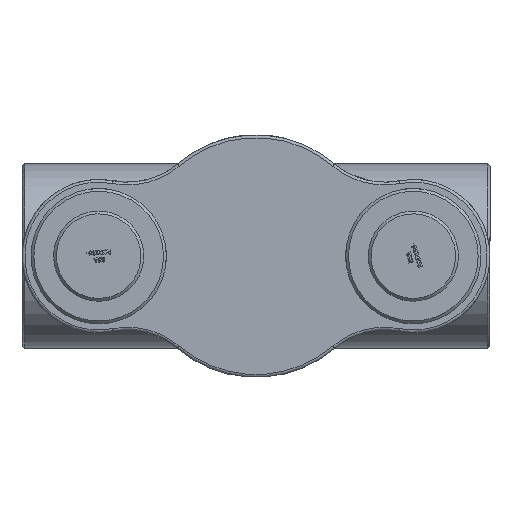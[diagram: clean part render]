
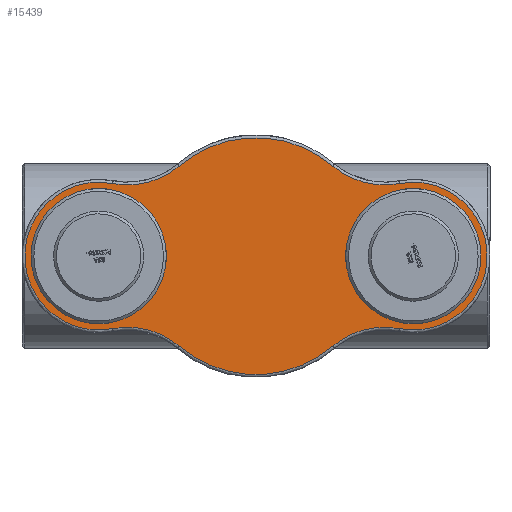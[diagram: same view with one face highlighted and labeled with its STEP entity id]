
A CAD part, front view. The second image highlights one B-rep face of the part: STEP entity #15439.
In plain terms, the highlighted planar face has unit normal (0, -1, 0) as drawn and (0, 0, -1) by its records, which use the part's own axes.
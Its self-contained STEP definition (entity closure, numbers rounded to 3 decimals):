
#4067=PLANE('',#16425);
#4478=FACE_BOUND('',#5477,.T.);
#4479=FACE_BOUND('',#5478,.T.);
#4579=FACE_OUTER_BOUND('',#5476,.T.);
#5476=EDGE_LOOP('',(#10642,#10643,#10644,#10645,#10646,#10647,#10648,#10649));
#5477=EDGE_LOOP('',(#10650));
#5478=EDGE_LOOP('',(#10651));
#6472=CIRCLE('',#16424,88.5);
#6473=CIRCLE('',#16426,131.);
#6474=CIRCLE('',#16427,141.);
#6475=CIRCLE('',#16428,210.);
#6476=CIRCLE('',#16429,141.);
#6477=CIRCLE('',#16430,131.);
#6478=CIRCLE('',#16431,141.);
#6479=CIRCLE('',#16432,210.);
#6480=CIRCLE('',#16433,141.);
#6481=CIRCLE('',#16434,88.5);
#6660=VERTEX_POINT('',#19953);
#6661=VERTEX_POINT('',#19956);
#6662=VERTEX_POINT('',#19957);
#6663=VERTEX_POINT('',#19959);
#6664=VERTEX_POINT('',#19961);
#6665=VERTEX_POINT('',#19963);
#6666=VERTEX_POINT('',#19965);
#6667=VERTEX_POINT('',#19967);
#6668=VERTEX_POINT('',#19969);
#6669=VERTEX_POINT('',#19972);
#8252=EDGE_CURVE('',#6660,#6660,#6472,.T.);
#8253=EDGE_CURVE('',#6661,#6662,#6473,.T.);
#8254=EDGE_CURVE('',#6663,#6661,#6474,.T.);
#8255=EDGE_CURVE('',#6664,#6663,#6475,.T.);
#8256=EDGE_CURVE('',#6665,#6664,#6476,.T.);
#8257=EDGE_CURVE('',#6666,#6665,#6477,.T.);
#8258=EDGE_CURVE('',#6667,#6666,#6478,.T.);
#8259=EDGE_CURVE('',#6668,#6667,#6479,.T.);
#8260=EDGE_CURVE('',#6662,#6668,#6480,.T.);
#8261=EDGE_CURVE('',#6669,#6669,#6481,.T.);
#10642=ORIENTED_EDGE('',*,*,#8253,.F.);
#10643=ORIENTED_EDGE('',*,*,#8254,.F.);
#10644=ORIENTED_EDGE('',*,*,#8255,.F.);
#10645=ORIENTED_EDGE('',*,*,#8256,.F.);
#10646=ORIENTED_EDGE('',*,*,#8257,.F.);
#10647=ORIENTED_EDGE('',*,*,#8258,.F.);
#10648=ORIENTED_EDGE('',*,*,#8259,.F.);
#10649=ORIENTED_EDGE('',*,*,#8260,.F.);
#10650=ORIENTED_EDGE('',*,*,#8261,.F.);
#10651=ORIENTED_EDGE('',*,*,#8252,.F.);
#15439=ADVANCED_FACE('',(#4579,#4478,#4479),#4067,.F.);
#16424=AXIS2_PLACEMENT_3D('',#19954,#17157,#17158);
#16425=AXIS2_PLACEMENT_3D('',#19955,#17159,#17160);
#16426=AXIS2_PLACEMENT_3D('',#19958,#17161,#17162);
#16427=AXIS2_PLACEMENT_3D('',#19960,#17163,#17164);
#16428=AXIS2_PLACEMENT_3D('',#19962,#17165,#17166);
#16429=AXIS2_PLACEMENT_3D('',#19964,#17167,#17168);
#16430=AXIS2_PLACEMENT_3D('',#19966,#17169,#17170);
#16431=AXIS2_PLACEMENT_3D('',#19968,#17171,#17172);
#16432=AXIS2_PLACEMENT_3D('',#19970,#17173,#17174);
#16433=AXIS2_PLACEMENT_3D('',#19971,#17175,#17176);
#16434=AXIS2_PLACEMENT_3D('',#19973,#17177,#17178);
#17157=DIRECTION('center_axis',(0.,0.,-1.));
#17158=DIRECTION('ref_axis',(1.,0.,0.));
#17159=DIRECTION('center_axis',(0.,0.,1.));
#17160=DIRECTION('ref_axis',(1.,0.,0.));
#17161=DIRECTION('center_axis',(0.,0.,1.));
#17162=DIRECTION('ref_axis',(-1.,0.,0.));
#17163=DIRECTION('center_axis',(0.,0.,-1.));
#17164=DIRECTION('ref_axis',(0.255,-0.967,0.));
#17165=DIRECTION('center_axis',(0.,0.,1.));
#17166=DIRECTION('ref_axis',(0.,1.,0.));
#17167=DIRECTION('center_axis',(0.,0.,-1.));
#17168=DIRECTION('ref_axis',(-0.255,-0.967,0.));
#17169=DIRECTION('center_axis',(0.,0.,1.));
#17170=DIRECTION('ref_axis',(1.,0.,0.));
#17171=DIRECTION('center_axis',(0.,0.,-1.));
#17172=DIRECTION('ref_axis',(-0.255,0.967,0.));
#17173=DIRECTION('center_axis',(0.,0.,1.));
#17174=DIRECTION('ref_axis',(0.,-1.,0.));
#17175=DIRECTION('center_axis',(0.,0.,-1.));
#17176=DIRECTION('ref_axis',(0.255,0.967,0.));
#17177=DIRECTION('center_axis',(0.,0.,-1.));
#17178=DIRECTION('ref_axis',(1.,0.,0.));
#19953=CARTESIAN_POINT('',(190.5,0.,0.));
#19954=CARTESIAN_POINT('Origin',(279.,0.,0.));
#19955=CARTESIAN_POINT('Origin',(0.,0.,
0.));
#19956=CARTESIAN_POINT('',(-254.294,128.649,0.));
#19957=CARTESIAN_POINT('',(-254.294,-128.649,0.));
#19958=CARTESIAN_POINT('Origin',(-279.,0.,0.));
#19959=CARTESIAN_POINT('',(-136.232,159.815,0.));
#19960=CARTESIAN_POINT('Origin',(-227.703,267.119,0.));
#19961=CARTESIAN_POINT('',(136.232,159.815,0.));
#19962=CARTESIAN_POINT('Origin',(0.,0.,0.));
#19963=CARTESIAN_POINT('',(254.294,128.649,0.));
#19964=CARTESIAN_POINT('Origin',(227.703,267.119,0.));
#19965=CARTESIAN_POINT('',(254.294,-128.649,0.));
#19966=CARTESIAN_POINT('Origin',(279.,0.,0.));
#19967=CARTESIAN_POINT('',(136.232,-159.815,0.));
#19968=CARTESIAN_POINT('Origin',(227.703,-267.119,0.));
#19969=CARTESIAN_POINT('',(-136.232,-159.815,0.));
#19970=CARTESIAN_POINT('Origin',(0.,0.,0.));
#19971=CARTESIAN_POINT('Origin',(-227.703,-267.119,0.));
#19972=CARTESIAN_POINT('',(-367.5,0.,0.));
#19973=CARTESIAN_POINT('Origin',(-279.,0.,0.));
